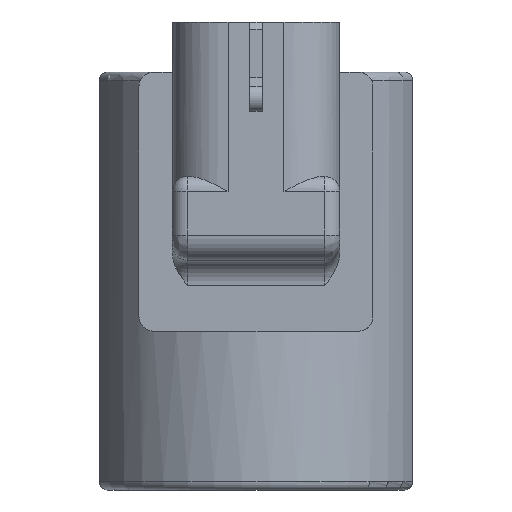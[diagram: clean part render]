
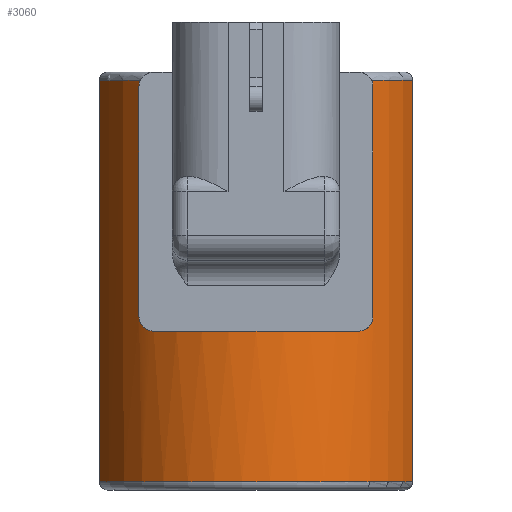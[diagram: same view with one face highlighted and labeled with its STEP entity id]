
A CAD part, left-side view. The second image highlights one B-rep face of the part: STEP entity #3060.
In plain terms, the highlighted cylindrical face has radius 19.5 mm (diameter 39 mm), a partial arc.
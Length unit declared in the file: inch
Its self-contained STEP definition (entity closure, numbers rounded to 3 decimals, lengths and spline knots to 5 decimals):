
#970=CARTESIAN_POINT('',(5.83631,4.50649,0.02835));
#971=VERTEX_POINT('',#970);
#983=CARTESIAN_POINT('',(5.84308,4.51314,-0.00118));
#984=VERTEX_POINT('',#983);
#985=CARTESIAN_POINT('',(5.84308,4.51314,-0.00118));
#986=CARTESIAN_POINT('',(5.84308,4.51314,0.00315));
#987=CARTESIAN_POINT('',(5.84265,4.51273,0.00754));
#988=CARTESIAN_POINT('',(5.84096,4.51107,0.01613));
#989=CARTESIAN_POINT('',(5.83969,4.50984,0.02032));
#990=CARTESIAN_POINT('',(5.83754,4.50771,0.02566));
#991=CARTESIAN_POINT('',(5.83694,4.50712,0.02702));
#992=CARTESIAN_POINT('',(5.83631,4.50649,0.02835));
#993=B_SPLINE_CURVE_WITH_KNOTS('',3,(#985,#986,#987,#988,#989,#990,#991,#992),.UNSPECIFIED.,.F.,.U.,(4,2,2,4),(0.0,0.33006,0.66013,0.77574),.UNSPECIFIED.);
#994=EDGE_CURVE('',#984,#971,#993,.T.);
#1037=CARTESIAN_POINT('',(6.16662,4.70015,0.02835));
#1038=VERTEX_POINT('',#1037);
#1056=CARTESIAN_POINT('',(6.37749,3.96196,0.02835));
#1057=DIRECTION('',(0.0,0.0,1.0));
#1058=DIRECTION('',(-1.0,0.0,0.0));
#1059=AXIS2_PLACEMENT_3D('',#1056,#1057,#1058);
#1060=CIRCLE('',#1059,0.76772);
#1061=EDGE_CURVE('',#1038,#971,#1060,.T.);
#1090=CARTESIAN_POINT('',(5.84308,3.41078,-0.00118));
#1091=VERTEX_POINT('',#1090);
#1098=CARTESIAN_POINT('',(5.83631,3.41743,0.02835));
#1099=VERTEX_POINT('',#1098);
#1100=CARTESIAN_POINT('',(5.83631,3.41743,0.02835));
#1101=CARTESIAN_POINT('',(5.83694,3.4168,0.02702));
#1102=CARTESIAN_POINT('',(5.83754,3.41621,0.02566));
#1103=CARTESIAN_POINT('',(5.83969,3.41408,0.02032));
#1104=CARTESIAN_POINT('',(5.84096,3.41285,0.01613));
#1105=CARTESIAN_POINT('',(5.84265,3.41119,0.00754));
#1106=CARTESIAN_POINT('',(5.84308,3.41078,0.00315));
#1107=CARTESIAN_POINT('',(5.84308,3.41078,-0.00118));
#1108=B_SPLINE_CURVE_WITH_KNOTS('',3,(#1100,#1101,#1102,#1103,#1104,#1105,#1106,#1107),.UNSPECIFIED.,.F.,.U.,(4,2,2,4),(-0.77574,-0.66013,-0.33006,0.0),.UNSPECIFIED.);
#1109=EDGE_CURVE('',#1099,#1091,#1108,.T.);
#2886=CARTESIAN_POINT('',(5.84308,3.41078,-1.08386));
#2887=VERTEX_POINT('',#2886);
#2888=CARTESIAN_POINT('',(5.84308,3.41078,-0.00118));
#2889=DIRECTION('',(0.0,0.0,-1.0));
#2890=VECTOR('',#2889,1.08268);
#2891=LINE('',#2888,#2890);
#2892=EDGE_CURVE('',#1091,#2887,#2891,.T.);
#2910=CARTESIAN_POINT('',(5.78017,3.47968,-1.15276));
#2911=VERTEX_POINT('',#2910);
#2912=CARTESIAN_POINT('',(5.84308,3.41078,-1.08386));
#2913=CARTESIAN_POINT('',(5.84308,3.41078,-1.08819));
#2914=CARTESIAN_POINT('',(5.84265,3.41119,-1.09258));
#2915=CARTESIAN_POINT('',(5.84096,3.41285,-1.10117));
#2916=CARTESIAN_POINT('',(5.83969,3.41408,-1.10536));
#2917=CARTESIAN_POINT('',(5.83491,3.4188,-1.11723));
#2918=CARTESIAN_POINT('',(5.83038,3.42334,-1.12419));
#2919=CARTESIAN_POINT('',(5.81934,3.43476,-1.13703));
#2920=CARTESIAN_POINT('',(5.81164,3.44297,-1.14298));
#2921=CARTESIAN_POINT('',(5.79575,3.46085,-1.15085));
#2922=CARTESIAN_POINT('',(5.78755,3.47053,-1.15276));
#2923=CARTESIAN_POINT('',(5.78017,3.47968,-1.15276));
#2924=B_SPLINE_CURVE_WITH_KNOTS('',3,(#2912,#2913,#2914,#2915,#2916,#2917,#2918,#2919,#2920,#2921,#2922,#2923),.UNSPECIFIED.,.F.,.U.,(4,2,2,2,2,4),(0.0,0.33006,0.66013,1.32026,2.21635,3.11244),.UNSPECIFIED.);
#2925=EDGE_CURVE('',#2887,#2911,#2924,.T.);
#2943=CARTESIAN_POINT('',(5.78017,4.44424,-1.15276));
#2944=VERTEX_POINT('',#2943);
#2945=CARTESIAN_POINT('',(6.37749,3.96196,-1.15276));
#2946=DIRECTION('',(0.0,0.0,-1.0));
#2947=DIRECTION('',(-1.0,0.0,0.0));
#2948=AXIS2_PLACEMENT_3D('',#2945,#2946,#2947);
#2949=CIRCLE('',#2948,0.76772);
#2950=EDGE_CURVE('',#2911,#2944,#2949,.T.);
#2968=CARTESIAN_POINT('',(5.84308,4.51314,-1.08386));
#2969=VERTEX_POINT('',#2968);
#2970=CARTESIAN_POINT('',(5.78017,4.44424,-1.15276));
#2971=CARTESIAN_POINT('',(5.78755,4.45339,-1.15276));
#2972=CARTESIAN_POINT('',(5.79575,4.46307,-1.15085));
#2973=CARTESIAN_POINT('',(5.81164,4.48095,-1.14298));
#2974=CARTESIAN_POINT('',(5.81934,4.48916,-1.13703));
#2975=CARTESIAN_POINT('',(5.83038,4.50058,-1.12419));
#2976=CARTESIAN_POINT('',(5.83491,4.50512,-1.11723));
#2977=CARTESIAN_POINT('',(5.83969,4.50984,-1.10536));
#2978=CARTESIAN_POINT('',(5.84096,4.51107,-1.10117));
#2979=CARTESIAN_POINT('',(5.84265,4.51273,-1.09258));
#2980=CARTESIAN_POINT('',(5.84308,4.51314,-1.08819));
#2981=CARTESIAN_POINT('',(5.84308,4.51314,-1.08386));
#2982=B_SPLINE_CURVE_WITH_KNOTS('',3,(#2970,#2971,#2972,#2973,#2974,#2975,#2976,#2977,#2978,#2979,#2980,#2981),.UNSPECIFIED.,.F.,.U.,(4,2,2,2,2,4),(-3.11244,-2.21635,-1.32026,-0.66013,-0.33006,0.0),.UNSPECIFIED.);
#2983=EDGE_CURVE('',#2944,#2969,#2982,.T.);
#3001=CARTESIAN_POINT('',(5.84308,4.51314,-1.08386));
#3002=DIRECTION('',(0.0,0.0,1.0));
#3003=VECTOR('',#3002,1.08268);
#3004=LINE('',#3001,#3003);
#3005=EDGE_CURVE('',#2969,#984,#3004,.T.);
#3013=CARTESIAN_POINT('',(6.37749,3.96196,0.06772));
#3014=DIRECTION('',(0.0,0.0,-1.0));
#3015=DIRECTION('',(-1.0,0.0,0.0));
#3016=AXIS2_PLACEMENT_3D('',#3013,#3014,#3015);
#3017=CYLINDRICAL_SURFACE('',#3016,0.76772);
#3018=ORIENTED_EDGE('',*,*,#1109,.T.);
#3019=ORIENTED_EDGE('',*,*,#2892,.T.);
#3020=ORIENTED_EDGE('',*,*,#2925,.T.);
#3021=ORIENTED_EDGE('',*,*,#2950,.T.);
#3022=ORIENTED_EDGE('',*,*,#2983,.T.);
#3023=ORIENTED_EDGE('',*,*,#3005,.T.);
#3024=ORIENTED_EDGE('',*,*,#994,.T.);
#3025=ORIENTED_EDGE('',*,*,#1061,.F.);
#3026=CARTESIAN_POINT('',(6.16662,4.70015,-1.86142));
#3027=VERTEX_POINT('',#3026);
#3028=CARTESIAN_POINT('',(6.16662,4.70015,0.02835));
#3029=DIRECTION('',(0.0,0.0,-1.0));
#3030=VECTOR('',#3029,1.88976);
#3031=LINE('',#3028,#3030);
#3032=EDGE_CURVE('',#1038,#3027,#3031,.T.);
#3033=ORIENTED_EDGE('',*,*,#3032,.T.);
#3034=CARTESIAN_POINT('',(6.16662,3.22377,-1.86142));
#3035=VERTEX_POINT('',#3034);
#3036=CARTESIAN_POINT('',(6.37749,3.96196,-1.86142));
#3037=DIRECTION('',(0.0,0.0,-1.0));
#3038=DIRECTION('',(-1.0,0.0,0.0));
#3039=AXIS2_PLACEMENT_3D('',#3036,#3037,#3038);
#3040=CIRCLE('',#3039,0.76772);
#3041=EDGE_CURVE('',#3035,#3027,#3040,.T.);
#3042=ORIENTED_EDGE('',*,*,#3041,.F.);
#3043=CARTESIAN_POINT('',(6.16662,3.22377,0.02835));
#3044=VERTEX_POINT('',#3043);
#3045=CARTESIAN_POINT('',(6.16662,3.22377,0.02835));
#3046=DIRECTION('',(0.0,0.0,-1.0));
#3047=VECTOR('',#3046,1.88976);
#3048=LINE('',#3045,#3047);
#3049=EDGE_CURVE('',#3044,#3035,#3048,.T.);
#3050=ORIENTED_EDGE('',*,*,#3049,.F.);
#3051=CARTESIAN_POINT('',(6.37749,3.96196,0.02835));
#3052=DIRECTION('',(0.0,0.0,1.0));
#3053=DIRECTION('',(-1.0,0.0,0.0));
#3054=AXIS2_PLACEMENT_3D('',#3051,#3052,#3053);
#3055=CIRCLE('',#3054,0.76772);
#3056=EDGE_CURVE('',#1099,#3044,#3055,.T.);
#3057=ORIENTED_EDGE('',*,*,#3056,.F.);
#3058=EDGE_LOOP('',(#3018,#3019,#3020,#3021,#3022,#3023,#3024,#3025,#3033,#3042,#3050,#3057));
#3059=FACE_OUTER_BOUND('',#3058,.T.);
#3060=ADVANCED_FACE('',(#3059),#3017,.T.);
